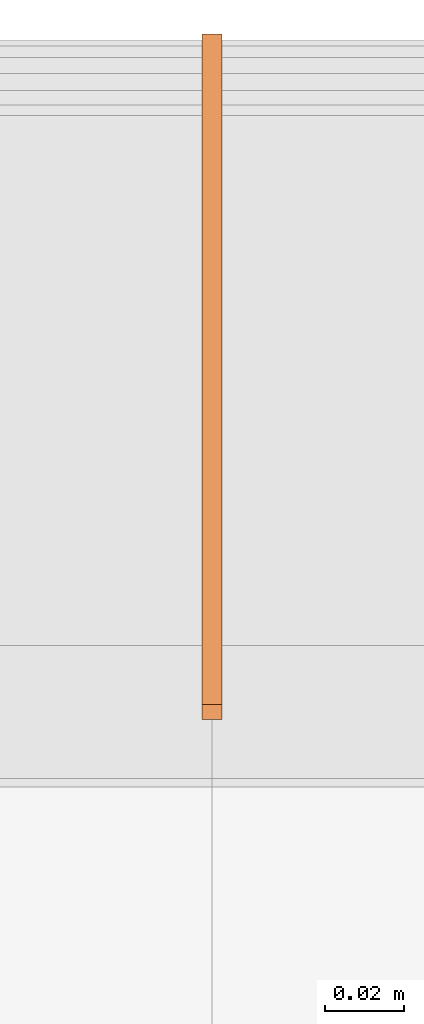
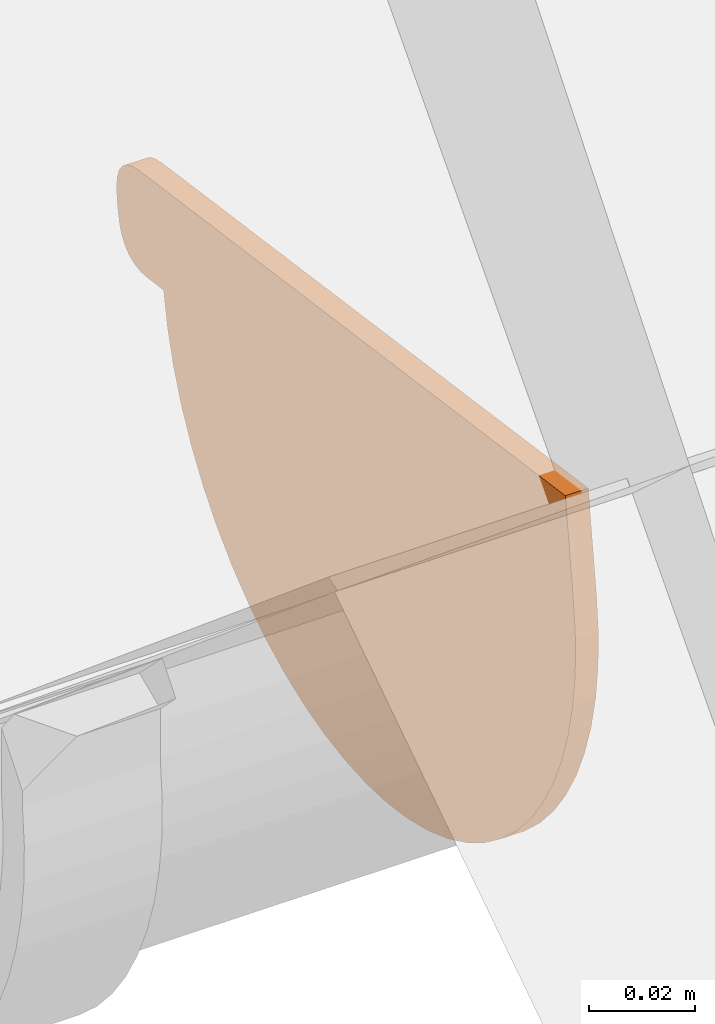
# One storey, part 36 of 43: 1 proxy.
"""IFC2X3 building model written with IfcOpenShell, lengths in millimetres."""

from ifc_helpers import new_model, si_unit, frame, origin_with_axes, place, context, project, spatial, faceted_brep, element, save


model = new_model("IFC2X3")

# Units and contexts
model_context = context("Model", 3, world=origin_with_axes())
ifc_project = project(units=[si_unit("LENGTHUNIT", "METRE", prefix="MILLI")], contexts=[model_context])

# Site, building, storey
site_placement = place(None, origin_with_axes())
site = spatial("IfcSite", under=ifc_project, at=site_placement, Name="Site", CompositionType="ELEMENT")
building_placement = place(site_placement, origin_with_axes())
building = spatial("IfcBuilding", under=site, at=building_placement, Name="?", CompositionType="ELEMENT")
storey_placement = place(building_placement, frame((0.0, 0.0, 5938.0), z_axis=(0.0, 0.0, 1.0), x_axis=(1.0, 0.0, 0.0)))
storey = spatial("IfcBuildingStorey", under=building, at=storey_placement, Name="Dachgeschoß", CompositionType="ELEMENT", Elevation=5938.0)

# Proxy
proxy_placement = place(None, origin_with_axes())
element("IfcBuildingElementProxy", 1, at=proxy_placement, inside=storey, Name="Dach02_RoofGutter#012", ObjectType="gutter", CompositionType="ELEMENT", context=model_context, shape_type="Brep", body=[
    faceted_brep([(9197.5, 656.250915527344, 6644.93896484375), (9202.5, 656.250915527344, 6644.93896484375), (9202.5, 654.756415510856, 6637.18036494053), (9197.5, 654.756415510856, 6637.18036494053), (9197.5, 654.756408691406, 6637.18017578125), (9202.5, 654.756408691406, 6637.18017578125), (9202.5, 652.484608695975, 6629.61247599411), (9197.5, 652.484608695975, 6629.61247599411), (9197.5, 652.484619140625, 6629.6123046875), (9202.5, 652.484619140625, 6629.6123046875), (9202.5, 649.458919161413, 6622.31340452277), (9197.5, 649.458919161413, 6622.31340452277), (9197.5, 649.458923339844, 6622.3134765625), (9202.5, 649.458923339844, 6622.3134765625), (9202.5, 645.710223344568, 6615.3580766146), (9197.5, 645.710223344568, 6615.3580766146), (9197.5, 645.710205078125, 6615.35791015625), (9202.5, 645.710205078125, 6615.35791015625), (9202.5, 641.277104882, 6608.817410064), (9197.5, 641.277104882, 6608.817410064), (9197.5, 641.277099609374, 6608.81787109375), (9202.5, 641.277099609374, 6608.81787109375), (9202.5, 636.205099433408, 6602.75937116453), (9197.5, 636.205099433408, 6602.75937116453), (9197.5, 636.205078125, 6602.75927734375), (9202.5, 636.205078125, 6602.75927734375), (9202.5, 630.546178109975, 6597.24507732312), (9197.5, 630.546178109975, 6597.24507732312), (9197.5, 630.546203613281, 6597.2451171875), (9202.5, 630.546203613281, 6597.2451171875), (9202.5, 624.358403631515, 6592.33171697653), (9197.5, 624.358403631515, 6592.33171697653), (9197.5, 624.3583984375, 6592.33154296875), (9202.5, 624.3583984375, 6592.33154296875), (9202.5, 617.705398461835, 6588.06924304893), (9197.5, 617.705398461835, 6588.06924304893), (9197.5, 617.705383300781, 6588.0693359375), (9202.5, 617.705383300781, 6588.0693359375), (9202.5, 610.655183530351, 6584.50213591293), (9197.5, 610.655183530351, 6584.50213591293), (9197.5, 610.655212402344, 6584.501953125), (9202.5, 610.655212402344, 6584.501953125), (9202.5, 603.280312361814, 6581.66625324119), (9197.5, 603.280312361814, 6581.66625324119), (9197.5, 603.2802734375, 6581.66650390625), (9202.5, 603.2802734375, 6581.66650390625), (9202.5, 595.656373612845, 6579.59140394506), (9197.5, 595.656373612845, 6579.59140394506), (9197.5, 595.656372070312, 6579.59130859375), (9202.5, 595.656372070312, 6579.59130859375), (9202.5, 587.861672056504, 6578.29820858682), (9197.5, 587.861672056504, 6578.29820858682), (9197.5, 587.861694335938, 6578.29833984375), (9202.5, 587.861694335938, 6578.29833984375), (9202.5, 579.976094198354, 6577.80043982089), (9197.5, 579.976094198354, 6577.80043982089), (9197.5, 579.97607421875, 6577.80029296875), (9202.5, 579.97607421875, 6577.80029296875), (9202.5, 572.080574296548, 6578.10269295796), (9197.5, 572.080574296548, 6578.10269295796), (9197.5, 572.080627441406, 6578.1025390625), (9202.5, 572.080627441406, 6578.1025390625), (9202.5, 564.256227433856, 6579.20223903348), (9197.5, 564.256227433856, 6579.20223903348), (9197.5, 564.256225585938, 6579.2021484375), (9202.5, 564.256225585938, 6579.2021484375), (9202.5, 556.583225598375, 6581.08764841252), (9197.5, 556.583225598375, 6581.08764841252), (9197.5, 556.583190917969, 6581.087890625), (9202.5, 556.583190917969, 6581.087890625), (9202.5, 549.140391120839, 6583.74009059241), (9197.5, 549.140391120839, 6583.74009059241), (9197.5, 549.140380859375, 6583.740234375), (9202.5, 549.140380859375, 6583.740234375), (9202.5, 542.003980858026, 6587.13183440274), (9197.5, 542.003980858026, 6587.13183440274), (9197.5, 542.004028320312, 6587.1318359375), (9202.5, 542.004028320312, 6587.1318359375), (9202.5, 535.247428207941, 6591.22793584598), (9197.5, 535.247428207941, 6591.22793584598), (9197.5, 535.247375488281, 6591.2275390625), (9202.5, 535.247375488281, 6591.2275390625), (9202.5, 528.939875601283, 6595.98613897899), (9197.5, 528.939875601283, 6595.98613897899), (9197.5, 528.939880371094, 6595.986328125), (9202.5, 528.939880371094, 6595.986328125), (9202.5, 523.146080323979, 6601.35872833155), (9197.5, 523.146080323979, 6601.35872833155), (9197.5, 523.146118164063, 6601.35888671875), (9202.5, 523.146118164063, 6601.35888671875), (9202.5, 517.925618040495, 6607.28988671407), (9197.5, 517.925618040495, 6607.28988671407), (9197.5, 517.925598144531, 6607.28955078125), (9202.5, 517.925598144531, 6607.28955078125), (9202.5, 513.331798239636, 6613.71815090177), (9197.5, 513.331798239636, 6613.71815090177), (9197.5, 513.331787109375, 6613.71826171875), (9202.5, 513.331787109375, 6613.71826171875), (9202.5, 509.412087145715, 6620.57876151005), (9197.5, 509.412087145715, 6620.57876151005), (9197.5, 509.412109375, 6620.57861328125), (9202.5, 509.412109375, 6620.57861328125), (9202.5, 506.206509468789, 6627.80031313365), (9197.5, 506.206509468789, 6627.80031313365), (9197.5, 506.206512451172, 6627.80078125), (9202.5, 506.206512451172, 6627.80078125), (9202.5, 503.747912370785, 6635.30988116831), (9197.5, 503.747912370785, 6635.30988116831), (9197.5, 503.747894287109, 6635.3095703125), (9202.5, 503.747894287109, 6635.3095703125), (9202.5, 502.061694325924, 6643.02877046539), (9197.5, 502.061694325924, 6643.02877046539), (9197.5, 502.061706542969, 6643.02880859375), (9202.5, 502.061706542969, 6643.02880859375), (9202.5, 501.165006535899, 6650.87910882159), (9197.5, 501.165006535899, 6650.87910882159), (9197.5, 501.165008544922, 6650.87939453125), (9202.5, 501.165008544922, 6650.87939453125), (9202.5, 501.067208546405, 6658.77999466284), (9197.5, 501.067208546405, 6658.77999466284), (9197.5, 501.067199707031, 6658.77978515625), (9202.5, 501.067199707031, 6658.77978515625), (9202.5, 501.769099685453, 6666.64988526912), (9197.5, 501.769099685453, 6666.64988526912), (9197.5, 501.769104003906, 6666.64990234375), (9202.5, 501.769104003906, 6666.64990234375), (9202.5, 579.010002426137, 6655.79430188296), (9197.5, 579.010002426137, 6655.79430188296), (9197.5, 579.010009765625, 6655.79443359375), (9202.5, 579.010009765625, 6655.79443359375), (9202.5, 656.250908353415, 6644.93893386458), (9197.5, 656.250908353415, 6644.93893386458), (9202.5, 502.061706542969, 6643.02880859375), (9202.5, 579.010006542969, 6655.79420859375), (9202.5, 501.769106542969, 6666.64980859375), (9202.5, 501.067206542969, 6658.77970859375), (9202.5, 502.061706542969, 6643.02880859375), (9202.5, 501.067206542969, 6658.77970859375), (9202.5, 501.165006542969, 6650.87910859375), (9202.5, 513.331787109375, 6613.71826171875), (9202.5, 502.061687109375, 6643.02876171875), (9202.5, 503.747887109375, 6635.30956171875), (9202.5, 506.206487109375, 6627.80046171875), (9202.5, 513.331787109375, 6613.71826171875), (9202.5, 506.206487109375, 6627.80046171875), (9202.5, 509.412087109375, 6620.57876171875), (9202.5, 564.256225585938, 6579.2021484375), (9202.5, 579.010025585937, 6655.7940484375), (9202.5, 502.061725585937, 6643.0286484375), (9202.5, 513.331825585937, 6613.7181484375), (9202.5, 535.247375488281, 6591.2275390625), (9202.5, 513.331775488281, 6613.7181390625), (9202.5, 517.925575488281, 6607.2895390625), (9202.5, 523.146075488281, 6601.3585390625), (9202.5, 535.247375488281, 6591.2275390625), (9202.5, 523.146075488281, 6601.3585390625), (9202.5, 528.939875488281, 6595.9861390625), (9202.5, 564.256225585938, 6579.2021484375), (9202.5, 535.247425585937, 6591.2275484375), (9202.5, 542.004025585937, 6587.1314484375), (9202.5, 549.140425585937, 6583.7398484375), (9202.5, 564.256225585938, 6579.2021484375), (9202.5, 549.140425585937, 6583.7398484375), (9202.5, 556.583225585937, 6581.0876484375), (9202.5, 564.256225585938, 6579.2021484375), (9202.5, 513.331825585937, 6613.7181484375), (9202.5, 535.247425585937, 6591.2275484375), (9202.5, 595.656372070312, 6579.59130859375), (9202.5, 564.256172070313, 6579.20240859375), (9202.5, 572.080572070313, 6578.10270859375), (9202.5, 579.976072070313, 6577.80030859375), (9202.5, 595.656372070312, 6579.59130859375), (9202.5, 579.976072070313, 6577.80030859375), (9202.5, 587.861672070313, 6578.29820859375), (9202.5, 624.3583984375, 6592.33154296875), (9202.5, 595.6563984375, 6579.59124296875), (9202.5, 603.2802984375, 6581.66634296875), (9202.5, 610.6551984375, 6584.50204296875), (9202.5, 624.3583984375, 6592.33154296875), (9202.5, 610.6551984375, 6584.50204296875), (9202.5, 617.7053984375, 6588.06924296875), (9202.5, 579.010009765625, 6655.79443359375), (9202.5, 564.256209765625, 6579.20253359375), (9202.5, 595.656409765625, 6579.59143359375), (9202.5, 624.358409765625, 6592.33173359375), (9202.5, 645.710205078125, 6615.35791015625), (9202.5, 624.358405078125, 6592.33131015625), (9202.5, 630.546205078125, 6597.24471015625), (9202.5, 636.205105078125, 6602.75891015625), (9202.5, 645.710205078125, 6615.35791015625), (9202.5, 636.205105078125, 6602.75891015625), (9202.5, 641.277105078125, 6608.81741015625), (9202.5, 652.484619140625, 6629.6123046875), (9202.5, 579.010019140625, 6655.7941046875), (9202.5, 624.358419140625, 6592.3314046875), (9202.5, 645.710219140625, 6615.3580046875), (9202.5, 652.484619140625, 6629.6123046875), (9202.5, 645.710219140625, 6615.3580046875), (9202.5, 649.458919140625, 6622.3134046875), (9202.5, 656.250915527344, 6644.93896484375), (9202.5, 579.010015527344, 6655.79446484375), (9202.5, 652.484615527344, 6629.61266484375), (9202.5, 654.756415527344, 6637.18036484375), (9197.5, 641.277099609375, 6608.81787109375), (9197.5, 654.756399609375, 6637.18037109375), (9197.5, 652.484599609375, 6629.61267109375), (9197.5, 649.458899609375, 6622.31377109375), (9197.5, 641.277099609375, 6608.81787109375), (9197.5, 649.458899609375, 6622.31377109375), (9197.5, 645.710199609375, 6615.35837109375), (9197.5, 617.705383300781, 6588.0693359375), (9197.5, 641.277083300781, 6608.8177359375), (9197.5, 636.205083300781, 6602.7592359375), (9197.5, 630.546183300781, 6597.2450359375), (9197.5, 617.705383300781, 6588.0693359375), (9197.5, 630.546183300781, 6597.2450359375), (9197.5, 624.358383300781, 6592.3316359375), (9197.5, 556.583190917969, 6581.087890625), (9197.5, 654.756390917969, 6637.180190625), (9197.5, 641.277090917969, 6608.817690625), (9197.5, 617.705390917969, 6588.069290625), (9197.5, 587.861694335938, 6578.29833984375), (9197.5, 617.705394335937, 6588.06943984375), (9197.5, 610.655194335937, 6584.50223984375), (9197.5, 603.280294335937, 6581.66653984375), (9197.5, 587.861694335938, 6578.29833984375), (9197.5, 603.280294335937, 6581.66653984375), (9197.5, 595.656394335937, 6579.59143984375), (9197.5, 556.583190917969, 6581.087890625), (9197.5, 587.861690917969, 6578.298190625), (9197.5, 579.976090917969, 6577.800290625), (9197.5, 572.080590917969, 6578.102690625), (9197.5, 556.583190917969, 6581.087890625), (9197.5, 572.080590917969, 6578.102690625), (9197.5, 564.256190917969, 6579.202390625), (9197.5, 556.583190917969, 6581.087890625), (9197.5, 617.705390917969, 6588.069290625), (9197.5, 587.861690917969, 6578.298190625), (9197.5, 528.939880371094, 6595.986328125), (9197.5, 556.583180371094, 6581.087828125), (9197.5, 549.140380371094, 6583.740028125), (9197.5, 542.003980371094, 6587.131628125), (9197.5, 528.939880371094, 6595.986328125), (9197.5, 542.003980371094, 6587.131628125), (9197.5, 535.247380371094, 6591.227728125), (9197.5, 509.412109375, 6620.57861328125), (9197.5, 528.939909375, 6595.98611328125), (9197.5, 523.146109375, 6601.35851328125), (9197.5, 517.925609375, 6607.28951328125), (9197.5, 509.412109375, 6620.57861328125), (9197.5, 517.925609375, 6607.28951328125), (9197.5, 513.331809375, 6613.71811328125), (9197.5, 654.756408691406, 6637.18017578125), (9197.5, 556.583208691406, 6581.08787578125), (9197.5, 528.939908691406, 6595.98637578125), (9197.5, 509.412108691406, 6620.57887578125), (9197.5, 501.165008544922, 6650.87939453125), (9197.5, 509.412108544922, 6620.57909453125), (9197.5, 506.206508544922, 6627.80079453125), (9197.5, 503.747908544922, 6635.30989453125), (9197.5, 501.165008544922, 6650.87939453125), (9197.5, 503.747908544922, 6635.30989453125), (9197.5, 502.061708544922, 6643.02909453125), (9197.5, 501.769104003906, 6666.64990234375), (9197.5, 654.756404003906, 6637.18020234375), (9197.5, 509.412104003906, 6620.57890234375), (9197.5, 501.165004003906, 6650.87920234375), (9197.5, 501.769104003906, 6666.64990234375), (9197.5, 501.165004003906, 6650.87920234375), (9197.5, 501.067204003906, 6658.77980234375), (9197.5, 656.250915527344, 6644.93896484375), (9197.5, 654.756415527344, 6637.18036484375), (9197.5, 501.769115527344, 6666.65006484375), (9197.5, 579.010015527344, 6655.79446484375), (9202.5, 501.769104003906, 6666.64990234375), (9197.5, 501.769104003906, 6666.64990234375), (9197.5, 662.090608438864, 6644.10700284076), (9202.5, 662.090608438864, 6644.10700284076), (9197.5, 665.291625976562, 6666.88330078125), (9197.5, 504.867225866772, 6689.4295002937), (9202.5, 504.867225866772, 6689.4295002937), (9202.5, 665.291625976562, 6666.88330078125), (9197.5, 504.8671875, 6689.42919921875), (9197.5, 501.769087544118, 6666.64969977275), (9202.5, 501.769087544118, 6666.64969977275), (9202.5, 504.8671875, 6689.42919921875), (9202.5, 667.054016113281, 6644.23388671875), (9202.5, 501.769116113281, 6666.65008671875), (9202.5, 662.090616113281, 6644.10718671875), (9202.5, 664.746016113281, 6643.94008671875), (9202.5, 670.627990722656, 6646.2041015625), (9202.5, 501.769090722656, 6666.6498015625), (9202.5, 667.053990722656, 6644.2336015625), (9202.5, 669.014690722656, 6644.9884015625), (9202.5, 672.812622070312, 6650.0185546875), (9202.5, 501.769122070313, 6666.6499546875), (9202.5, 670.628022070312, 6646.2042546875), (9202.5, 671.894022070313, 6647.8809546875), (9202.5, 665.291625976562, 6666.88330078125), (9202.5, 501.769125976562, 6666.65000078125), (9202.5, 672.812625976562, 6650.01860078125), (9202.5, 673.383925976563, 6652.61720078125), (9202.5, 673.674987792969, 6660.55322265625), (9202.5, 673.383887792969, 6652.61702265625), (9202.5, 673.801687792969, 6655.58982265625), (9202.5, 673.968787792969, 6658.24522265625), (9202.5, 671.704528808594, 6664.12744140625), (9202.5, 673.383928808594, 6652.61724140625), (9202.5, 673.675028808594, 6660.55344140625), (9202.5, 672.920228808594, 6662.51414140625), (9202.5, 667.890197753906, 6666.31201171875), (9202.5, 673.383897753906, 6652.61721171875), (9202.5, 671.704497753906, 6664.12741171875), (9202.5, 670.027797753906, 6665.39341171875), (9202.5, 665.291625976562, 6666.88330078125), (9202.5, 673.383925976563, 6652.61720078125), (9202.5, 667.890225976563, 6666.31200078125), (9202.5, 504.8671875, 6689.42919921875), (9202.5, 501.7690875, 6666.64969921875), (9202.5, 665.2915875, 6666.88299921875), (9202.5, 673.801696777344, 6655.58984375), (9202.5, 673.383896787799, 6652.61704377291), (9197.5, 673.383896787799, 6652.61704377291), (9197.5, 673.801696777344, 6655.58984375), (9197.5, 673.801696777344, 6655.58984375), (9197.5, 662.090596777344, 6644.10694375), (9197.5, 501.769096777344, 6666.64984375), (9197.5, 504.867196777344, 6689.42934375), (9197.5, 670.027770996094, 6665.39306640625), (9197.5, 504.867170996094, 6689.42916640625), (9197.5, 665.291570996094, 6666.88296640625), (9197.5, 667.890170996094, 6666.31166640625), (9197.5, 672.920227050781, 6662.51416015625), (9197.5, 504.867227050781, 6689.42956015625), (9197.5, 670.027827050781, 6665.39346015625), (9197.5, 671.704527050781, 6664.12746015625), (9197.5, 673.968811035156, 6658.2451171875), (9197.5, 504.867211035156, 6689.4292171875), (9197.5, 672.920211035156, 6662.5138171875), (9197.5, 673.675011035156, 6660.5531171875), (9197.5, 673.801696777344, 6655.58984375), (9197.5, 504.867196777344, 6689.42934375), (9197.5, 673.968796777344, 6658.24524375), (9197.5, 667.054016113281, 6644.23388671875), (9197.5, 664.746016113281, 6643.94008671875), (9197.5, 662.090616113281, 6644.10718671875), (9197.5, 673.801716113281, 6655.59008671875), (9197.5, 670.627990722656, 6646.2041015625), (9197.5, 669.014690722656, 6644.9884015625), (9197.5, 667.053990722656, 6644.2336015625), (9197.5, 673.801690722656, 6655.5898015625), (9197.5, 672.812622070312, 6650.0185546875), (9197.5, 671.894022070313, 6647.8809546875), (9197.5, 670.628022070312, 6646.2042546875), (9197.5, 673.801722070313, 6655.5899546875), (9197.5, 673.801696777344, 6655.58984375), (9197.5, 673.383896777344, 6652.61704375), (9197.5, 672.812596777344, 6650.01844375), (9197.5, 664.745971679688, 6643.93994140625), (9202.5, 664.745971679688, 6643.93994140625), (9202.5, 662.090571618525, 6644.10704139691), (9197.5, 662.090571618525, 6644.10704139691), (9202.5, 667.890197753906, 6666.31201171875), (9197.5, 667.890197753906, 6666.31201171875), (9197.5, 665.291597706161, 6666.88331171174), (9202.5, 665.291597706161, 6666.88331171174), (9197.5, 667.054016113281, 6644.23388671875), (9202.5, 667.054016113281, 6644.23388671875), (9202.5, 664.746016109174, 6643.9400867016), (9197.5, 664.746016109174, 6643.9400867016), (9197.5, 669.014709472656, 6644.98828125), (9202.5, 669.014709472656, 6644.98828125), (9202.5, 667.054009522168, 6644.23348128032), (9197.5, 667.054009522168, 6644.23348128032), (9197.5, 670.627990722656, 6646.2041015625), (9202.5, 670.627990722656, 6646.2041015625), (9202.5, 669.014690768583, 6644.98840159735), (9197.5, 669.014690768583, 6644.98840159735), (9197.5, 671.893981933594, 6647.880859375), (9202.5, 671.893981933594, 6647.880859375), (9202.5, 670.627981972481, 6646.20415938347), (9197.5, 670.627981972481, 6646.20415938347), (9197.5, 672.812622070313, 6650.0185546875), (9202.5, 672.812622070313, 6650.0185546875), (9202.5, 671.894022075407, 6647.88095474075), (9197.5, 671.894022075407, 6647.88095474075), (9197.5, 673.383911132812, 6652.6171875), (9202.5, 673.383911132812, 6652.6171875), (9202.5, 672.812611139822, 6650.01858745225), (9197.5, 672.812611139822, 6650.01858745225), (9202.5, 670.027770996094, 6665.39306640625), (9197.5, 670.027770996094, 6665.39306640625), (9197.5, 667.890171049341, 6666.31166640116), (9202.5, 667.890171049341, 6666.31166640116), (9202.5, 671.704528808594, 6664.12744140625), (9197.5, 671.704528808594, 6664.12744140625), (9197.5, 670.027828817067, 6665.39344136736), (9202.5, 670.027828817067, 6665.39344136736), (9202.5, 672.920227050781, 6662.51416015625), (9197.5, 672.920227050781, 6662.51416015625), (9197.5, 671.704527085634, 6664.12746011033), (9202.5, 671.704527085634, 6664.12746011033), (9202.5, 673.674987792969, 6660.55322265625), (9197.5, 673.674987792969, 6660.55322265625), (9197.5, 672.920187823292, 6662.51392260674), (9202.5, 672.920187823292, 6662.51392260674), (9202.5, 673.968811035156, 6658.2451171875), (9197.5, 673.968811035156, 6658.2451171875), (9197.5, 673.675011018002, 6660.55311719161), (9202.5, 673.675011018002, 6660.55311719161), (9202.5, 673.801696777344, 6655.58984375), (9197.5, 673.801696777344, 6655.58984375), (9197.5, 673.968796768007, 6658.24524381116), (9202.5, 673.968796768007, 6658.24524381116)], [[[0, 1, 2, 3]], [[4, 5, 6, 7]], [[8, 9, 10, 11]], [[12, 13, 14, 15]], [[16, 17, 18, 19]], [[20, 21, 22, 23]], [[24, 25, 26, 27]], [[28, 29, 30, 31]], [[32, 33, 34, 35]], [[36, 37, 38, 39]], [[40, 41, 42, 43]], [[44, 45, 46, 47]], [[48, 49, 50, 51]], [[52, 53, 54, 55]], [[56, 57, 58, 59]], [[60, 61, 62, 63]], [[64, 65, 66, 67]], [[68, 69, 70, 71]], [[72, 73, 74, 75]], [[76, 77, 78, 79]], [[80, 81, 82, 83]], [[84, 85, 86, 87]], [[88, 89, 90, 91]], [[92, 93, 94, 95]], [[96, 97, 98, 99]], [[100, 101, 102, 103]], [[104, 105, 106, 107]], [[108, 109, 110, 111]], [[112, 113, 114, 115]], [[116, 117, 118, 119]], [[120, 121, 122, 123]], [[124, 125, 126, 127]], [[128, 129, 130, 131]], [[132, 133, 134, 135]], [[136, 137, 138]], [[139, 140, 141, 142]], [[143, 144, 145]], [[146, 147, 148, 149]], [[150, 151, 152, 153]], [[154, 155, 156]], [[157, 158, 159, 160]], [[161, 162, 163]], [[164, 165, 166]], [[167, 168, 169, 170]], [[171, 172, 173]], [[174, 175, 176, 177]], [[178, 179, 180]], [[181, 182, 183, 184]], [[185, 186, 187, 188]], [[189, 190, 191]], [[192, 193, 194, 195]], [[196, 197, 198]], [[199, 200, 201, 202]], [[203, 204, 205, 206]], [[207, 208, 209]], [[210, 211, 212, 213]], [[214, 215, 216]], [[217, 218, 219, 220]], [[221, 222, 223, 224]], [[225, 226, 227]], [[228, 229, 230, 231]], [[232, 233, 234]], [[235, 236, 237]], [[238, 239, 240, 241]], [[242, 243, 244]], [[245, 246, 247, 248]], [[249, 250, 251]], [[252, 253, 254, 255]], [[256, 257, 258, 259]], [[260, 261, 262]], [[263, 264, 265, 266]], [[267, 268, 269]], [[270, 271, 272, 273]], [[274, 275, 276, 277]], [[278, 279, 280, 281]], [[282, 283, 284, 285]], [[286, 287, 288, 289]], [[290, 291, 292, 293]], [[294, 295, 296, 297]], [[298, 299, 300, 301]], [[302, 303, 304, 305]], [[306, 307, 308, 309]], [[310, 311, 312, 313]], [[314, 315, 316]], [[317, 318, 319]], [[320, 321, 322, 323]], [[324, 325, 326, 327]], [[328, 329, 330, 331]], [[332, 333, 334, 335]], [[336, 337, 338, 339]], [[340, 341, 342]], [[343, 344, 345, 346]], [[347, 348, 349, 350]], [[351, 352, 353, 354]], [[355, 356, 357]], [[358, 359, 360, 361]], [[362, 363, 364, 365]], [[366, 367, 368, 369]], [[370, 371, 372, 373]], [[374, 375, 376, 377]], [[378, 379, 380, 381]], [[382, 383, 384, 385]], [[386, 387, 388, 389]], [[390, 391, 392, 393]], [[394, 395, 396, 397]], [[398, 399, 400, 401]], [[402, 403, 404, 405]], [[406, 407, 408, 409]], [[410, 411, 412, 413]]]),
])

save(model, "model.ifc")
